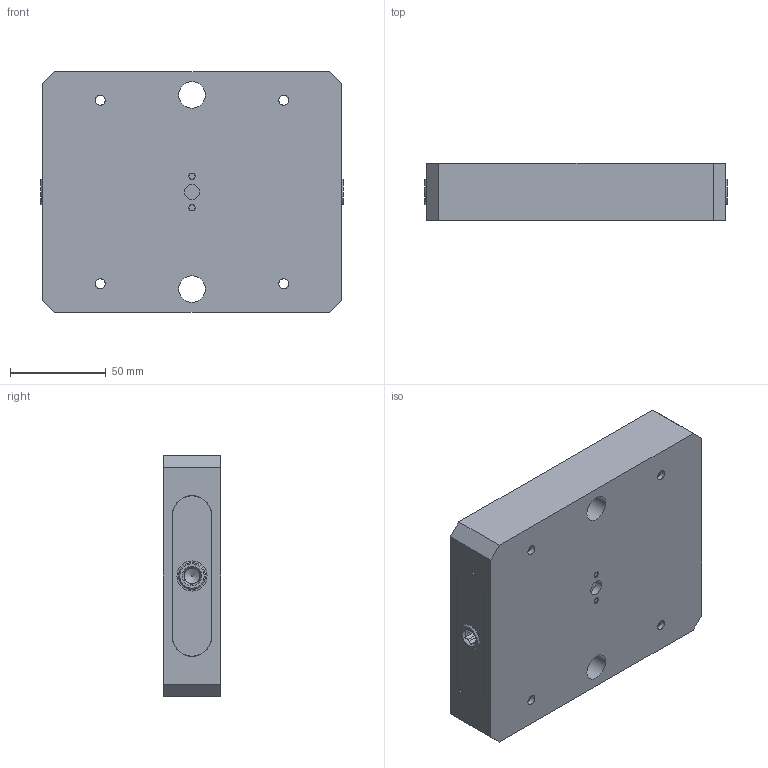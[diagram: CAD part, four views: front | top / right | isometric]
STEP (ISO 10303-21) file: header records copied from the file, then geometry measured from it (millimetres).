
FILE_DESCRIPTION (( 'STEP AP214' ), '1' );
FILE_NAME ('RL96S-56_WEBSITE.STEP', '2025-08-11T12:05:11', ( '' ), ( '' ), 'SwSTEP 2.0', 'SolidWorks 2025', '' );
FILE_SCHEMA (( 'AUTOMOTIVE_DESIGN' ));
Length unit declared in the file: inch
Products named in the file (10): D_RL96-2R_WEBSITE; D_RL96-156S_WEBSITE; RL96S-56_WEBSITE; D_SB54_WEBSITE_FINISHED PART; D_RL96-2L_WEBSITE; D_RL96-3_WEBSITE; D_HW27X20.DB_WEBSITE; 9452K183-Base-O-Ring_WEBSITE; 9452K121-Truck-O-Ring_WEBSITE; 9750K730_PLASTIC ROUND PLUG_WEBSITE_9750K73
Assembly tree (16 placements, depth 2):
  RL96S-56_WEBSITE
    D_RL96-156S_WEBSITE
    D_RL96-2L_WEBSITE
    D_SB54_WEBSITE_FINISHED PART  x2
    D_HW27X20.DB_WEBSITE  x4
    D_RL96-2R_WEBSITE
    D_RL96-3_WEBSITE
    9452K183-Base-O-Ring_WEBSITE  x4
    9452K121-Truck-O-Ring_WEBSITE  x2
  9750K730_PLASTIC ROUND PLUG_WEBSITE_9750K73
Bounding box: 158 x 30 x 126 mm (x, y, z)
Volume: 503420.5 mm3; surface area: 119772.1 mm2
Topology: 18 solids, 18 shells, 272 faces, 608 edges, 382 vertices
Faces by surface type: plane 167, cylinder 81, cone 12, torus 10, bspline 2
Full cylindrical faces by diameter (mm): 0.127 x2, 2.5 x2, 3.3 x2, 4 x2, 4.7 x2, 5 x2, 5.182 x6, 8.026 x1, 8.204 x2, 9 x2, 9.525 x2, 10.795 x1, 11.938 x4, 12.573 x4, 13.894 x2, 14 x2, 15.748 x2, 19.05 x2, 19.126 x4, 19.99 x1, 20.008 x4, 20.035 x4, 20.638 x2, 26.977 x4, 26.993 x4
Entity records: 8769 total; most frequent: CARTESIAN_POINT 3122, DIRECTION 1054, ORIENTED_EDGE 862, EDGE_CURVE 431, AXIS2_PLACEMENT_3D 421, EDGE_LOOP 346, VERTEX_POINT 307, FACE_OUTER_BOUND 280
